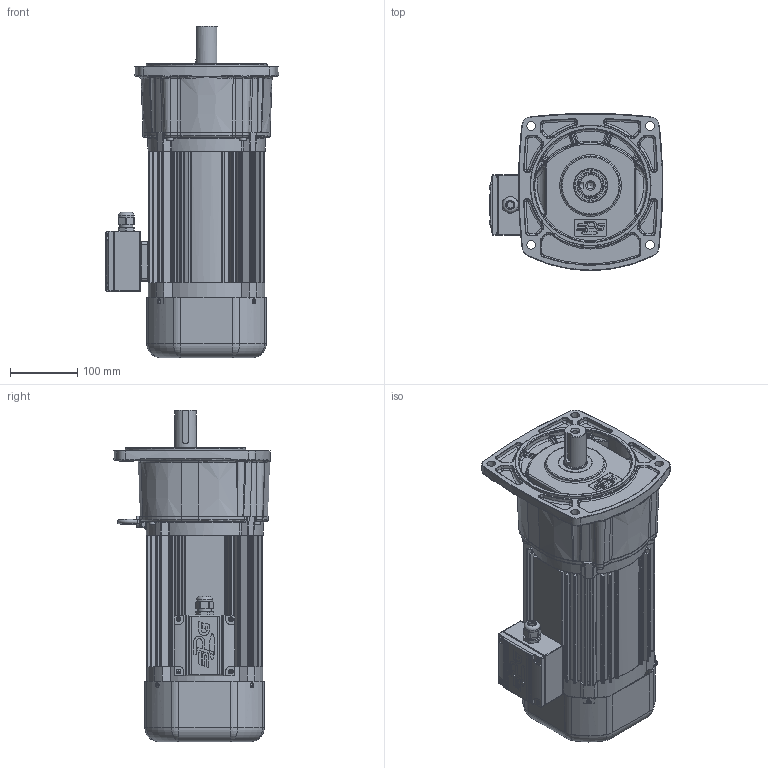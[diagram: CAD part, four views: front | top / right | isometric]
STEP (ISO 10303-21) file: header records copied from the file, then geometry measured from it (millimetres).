
FILE_DESCRIPTION(/* description */ (''),/* implementation_level */ '2;1');
FILE_NAME(/* name */ 'Z:\동력 3D 파일\PAF32_1.5kW_Brake_3D.stp',/* time_stamp */ '2021-11-08T15:57:44+09:00',/* author */ ('jaebok'),/* organization */ (''),/* preprocessor_version */ 'ST-DEVELOPER v18.1',/* originating_system */ 'Autodesk Inventor 2022',/* authorisation */ '');
FILE_SCHEMA (('AUTOMOTIVE_DESIGN { 1 0 10303 214 3 1 1 }'));
Products named in the file (1): 부품20
Bounding box: 257.68 x 233.68 x 493.3 mm (x, y, z)
Volume: 4054649.8 mm3; surface area: 988631.1 mm2
Topology: 2 solids, 29 shells, 3624 faces, 9093 edges, 5378 vertices
Faces by surface type: plane 1046, bspline 956, cylinder 898, torus 311, cone 259, sphere 154
Full cylindrical faces by diameter (mm): 2 x1, 3.25 x1, 3.6 x4, 4 x22, 4.917 x4, 5 x21, 6 x9, 6.5 x4, 6.647 x1, 7 x13, 8 x1, 10 x5, 10.106 x1, 12.5 x1, 15 x1, 20 x2, 20.6 x1, 21 x1, 22 x2, 23.6 x1, 25 x1, 30 x1, 31.96 x1, 32 x1, 32.3 x1, 35 x3, 36 x1, 37 x1, 39.2 x1, 40 x1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
Entity records: 145031 total; most frequent: CARTESIAN_POINT 61580, ORIENTED_EDGE 17684, DIRECTION 15388, EDGE_CURVE 8842, AXIS2_PLACEMENT_3D 6269, VERTEX_POINT 5376, EDGE_LOOP 3846, FACE_OUTER_BOUND 3624
